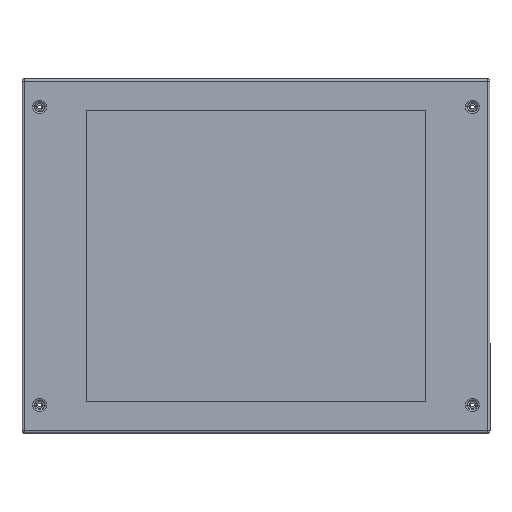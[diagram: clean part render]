
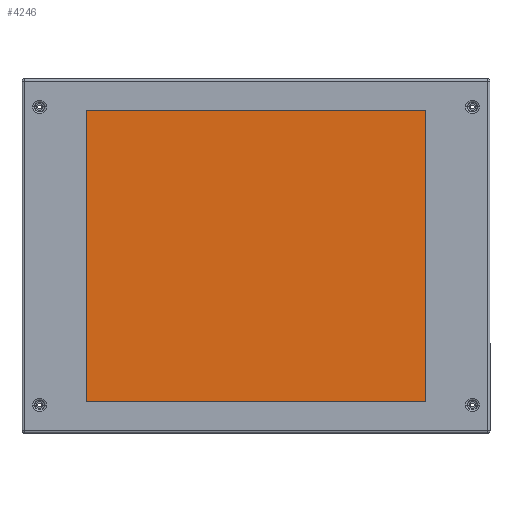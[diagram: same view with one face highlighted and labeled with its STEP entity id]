
A CAD part, top view. The second image highlights one B-rep face of the part: STEP entity #4246.
In plain terms, the highlighted planar face has unit normal (0, 0, 1).
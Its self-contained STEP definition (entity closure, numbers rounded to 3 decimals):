
#1025 = VECTOR ( 'NONE', #3184, 1000. ) ;
#1036 = VECTOR ( 'NONE', #3178, 1000. ) ;
#1057 = VECTOR ( 'NONE', #3163, 1000. ) ;
#1061 = VECTOR ( 'NONE', #3199, 1000. ) ;
#1175 = EDGE_LOOP ( 'NONE', ( #4702, #4625, #4562, #4581 ) ) ;
#1736 = VERTEX_POINT ( 'NONE', #4406 ) ;
#1737 = VERTEX_POINT ( 'NONE', #4405 ) ;
#1741 = VERTEX_POINT ( 'NONE', #4401 ) ;
#1744 = VERTEX_POINT ( 'NONE', #4398 ) ;
#2180 = EDGE_CURVE ( 'NONE', #1737, #1744, #3201, .T. ) ;
#2185 = EDGE_CURVE ( 'NONE', #1744, #1741, #3186, .T. ) ;
#2187 = EDGE_CURVE ( 'NONE', #1741, #1736, #3180, .T. ) ;
#2192 = EDGE_CURVE ( 'NONE', #1736, #1737, #3165, .T. ) ;
#2593 = AXIS2_PLACEMENT_3D ( 'NONE', #3421, #3676, #3452 ) ;
#2606 = FACE_OUTER_BOUND ( 'NONE', #1175, .T. ) ;
#3163 = DIRECTION ( 'NONE',  ( 0., 1., 0. ) ) ;
#3164 = CARTESIAN_POINT ( 'NONE',  ( -285., 244.5, -2. ) ) ;
#3165 = LINE ( 'NONE', #3164, #1057 ) ;
#3178 = DIRECTION ( 'NONE',  ( -1., 0., 0. ) ) ;
#3179 = CARTESIAN_POINT ( 'NONE',  ( 285., -244.5, -2. ) ) ;
#3180 = LINE ( 'NONE', #3179, #1036 ) ;
#3184 = DIRECTION ( 'NONE',  ( 0., -1., 0. ) ) ;
#3185 = CARTESIAN_POINT ( 'NONE',  ( 285., 244.5, -2. ) ) ;
#3186 = LINE ( 'NONE', #3185, #1025 ) ;
#3199 = DIRECTION ( 'NONE',  ( 1., 0., 0. ) ) ;
#3200 = CARTESIAN_POINT ( 'NONE',  ( 285., 244.5, -2. ) ) ;
#3201 = LINE ( 'NONE', #3200, #1061 ) ;
#3421 = CARTESIAN_POINT ( 'NONE',  ( 0., 0., -2. ) ) ;
#3452 = DIRECTION ( 'NONE',  ( -1., 0., 0. ) ) ;
#3572 = PLANE ( 'NONE',  #2593 ) ;
#3676 = DIRECTION ( 'NONE',  ( 0., 0., -1. ) ) ;
#4246 = ADVANCED_FACE ( 'NONE', ( #2606 ), #3572, .F. ) ;
#4398 = CARTESIAN_POINT ( 'NONE',  ( 285., 244.5, -2. ) ) ;
#4401 = CARTESIAN_POINT ( 'NONE',  ( 285., -244.5, -2. ) ) ;
#4405 = CARTESIAN_POINT ( 'NONE',  ( -285., 244.5, -2. ) ) ;
#4406 = CARTESIAN_POINT ( 'NONE',  ( -285., -244.5, -2. ) ) ;
#4562 = ORIENTED_EDGE ( 'NONE', *, *, #2187, .F. ) ;
#4581 = ORIENTED_EDGE ( 'NONE', *, *, #2185, .F. ) ;
#4625 = ORIENTED_EDGE ( 'NONE', *, *, #2192, .F. ) ;
#4702 = ORIENTED_EDGE ( 'NONE', *, *, #2180, .F. ) ;
